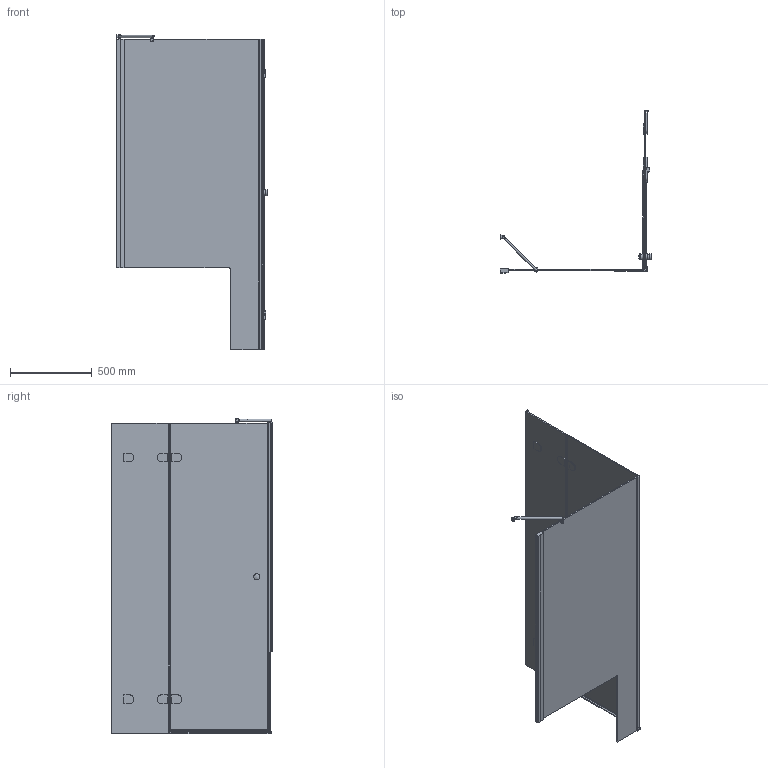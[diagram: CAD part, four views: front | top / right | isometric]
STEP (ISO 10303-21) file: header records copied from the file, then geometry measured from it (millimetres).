
FILE_DESCRIPTION(/* description */ (''),/* implementation_level */ '2;1');
FILE_NAME(/* name */ 'E:\Работа\Сергей\Душевые кабинки\! Работа\LUX SQUARE GK-003V1P-2522\LUX SQUARE GK-003V1P-2522 правая модель\LUX SQUARE GK-003V1P-2522 ПРАВАЯ-3D.stp',/* time_stamp */ '2017-06-06T08:33:57+03:00',/* author */ ('PC'),/* organization */ (''),/* preprocessor_version */ 'ST-DEVELOPER v15.2',/* originating_system */ 'Autodesk Inventor 2014',/* authorisation */ '');
FILE_SCHEMA (('AUTOMOTIVE_DESIGN { 1 0 10303 214 3 1 1 }'));
Length unit declared in the file: millimetre
Products named in the file (1): LUX SQUARE GK-003V1P-2522 \X2\041F0420041004120410042F
\X0\-3D
Bounding box: 927.14 x 991.16 x 1931.5 mm (x, y, z)
Volume: 24957916.1 mm3; surface area: 6793000.3 mm2
Topology: 4 solids, 4 shells, 601 faces, 1479 edges, 912 vertices
Faces by surface type: plane 434, cylinder 143, torus 14, sphere 6, bspline 4
Full cylindrical faces by diameter (mm): 12 x1, 15 x1, 20 x2, 26 x1, 38 x4
Entity records: 18285 total; most frequent: CARTESIAN_POINT 3488, DIRECTION 2916, ORIENTED_EDGE 2908, EDGE_CURVE 1454, LINE 1098, VECTOR 1098, AXIS2_PLACEMENT_3D 909, VERTEX_POINT 902
